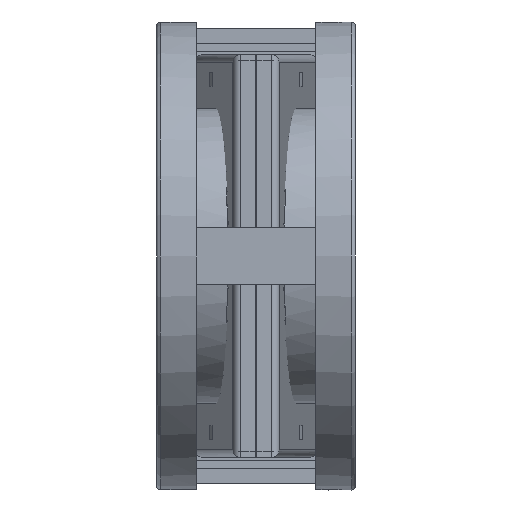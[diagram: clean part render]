
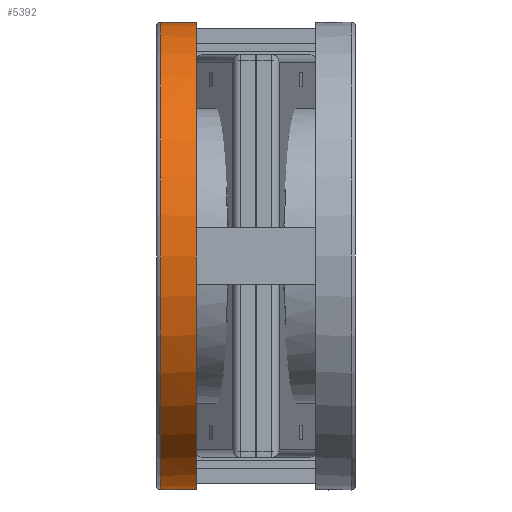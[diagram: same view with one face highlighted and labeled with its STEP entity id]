
A CAD part, front view. The second image highlights one B-rep face of the part: STEP entity #5392.
In plain terms, the highlighted cylindrical face has radius 82.4 mm (diameter 164.8 mm), a full revolution.
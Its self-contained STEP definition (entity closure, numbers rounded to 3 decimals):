
#3481=ELLIPSE('',#22802,82.715,82.4);
#5014=CYLINDRICAL_SURFACE('',#22804,82.4);
#5392=ADVANCED_FACE('',(#7038,#7039),#5014,.T.);
#7038=FACE_BOUND('',#7684,.T.);
#7039=FACE_BOUND('',#7685,.T.);
#7684=EDGE_LOOP('',(#10180,#10181));
#7685=EDGE_LOOP('',(#10182));
#9055=CIRCLE('',#22792,82.4);
#9064=CIRCLE('',#22803,82.4);
#10180=ORIENTED_EDGE('',*,*,#17053,.F.);
#10181=ORIENTED_EDGE('',*,*,#17044,.F.);
#10182=ORIENTED_EDGE('',*,*,#17054,.T.);
#15172=VERTEX_POINT('',#30707);
#15173=VERTEX_POINT('',#30708);
#15182=VERTEX_POINT('',#30729);
#17044=EDGE_CURVE('',#15172,#15173,#9055,.T.);
#17053=EDGE_CURVE('',#15173,#15172,#3481,.T.);
#17054=EDGE_CURVE('',#15182,#15182,#9064,.T.);
#22792=AXIS2_PLACEMENT_3D('',#30709,#24814,#24815);
#22802=AXIS2_PLACEMENT_3D('',#30727,#24834,#24835);
#22803=AXIS2_PLACEMENT_3D('',#30728,#24836,#24837);
#22804=AXIS2_PLACEMENT_3D('',#30730,#24838,#24839);
#24814=DIRECTION('',(1.,0.,0.));
#24815=DIRECTION('',(0.,1.,0.));
#24834=DIRECTION('',(0.996,0.087,0.));
#24835=DIRECTION('',(0.087,-0.996,0.));
#24836=DIRECTION('',(1.,0.,0.));
#24837=DIRECTION('',(0.,1.,0.));
#24838=DIRECTION('',(1.,0.,0.));
#24839=DIRECTION('',(0.,1.,0.));
#30707=CARTESIAN_POINT('',(14.,76.47,30.692));
#30708=CARTESIAN_POINT('',(14.,76.47,-30.692));
#30709=CARTESIAN_POINT('',(14.,0.,0.));
#30727=CARTESIAN_POINT('',(20.69,0.,0.));
#30728=CARTESIAN_POINT('',(1.5,0.,0.));
#30729=CARTESIAN_POINT('',(1.5,82.4,0.));
#30730=CARTESIAN_POINT('',(21.4,0.,0.));
